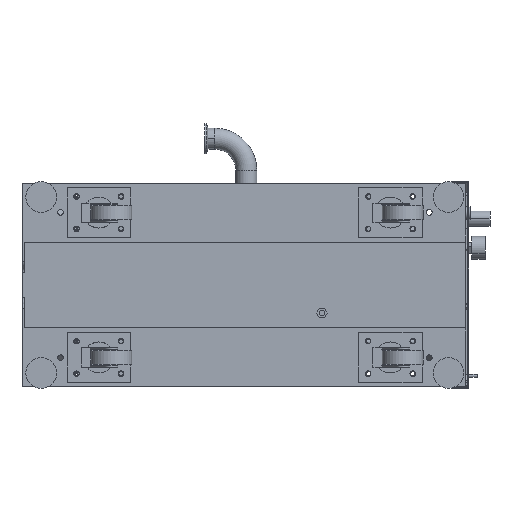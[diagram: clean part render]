
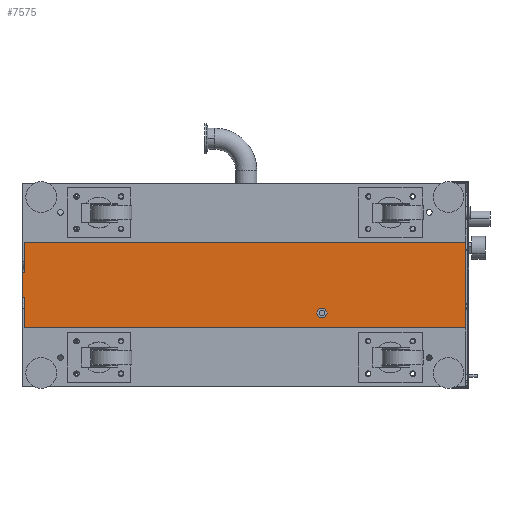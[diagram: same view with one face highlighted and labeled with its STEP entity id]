
A CAD part, front view. The second image highlights one B-rep face of the part: STEP entity #7575.
In plain terms, the highlighted planar face has unit normal (0, -1, 0).
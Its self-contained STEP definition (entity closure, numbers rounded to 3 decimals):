
#1477=DIRECTION('',(1.,0.,0.));
#1478=VECTOR('',#1477,802.);
#1479=CARTESIAN_POINT('',(-401.,59.,-107.));
#1480=LINE('',#1479,#1478);
#1499=DIRECTION('',(0.,0.,1.));
#1500=VECTOR('',#1499,55.);
#1501=CARTESIAN_POINT('',(-401.,59.,-263.));
#1502=LINE('',#1501,#1500);
#1503=DIRECTION('',(0.,0.,-1.));
#1504=VECTOR('',#1503,46.);
#1505=CARTESIAN_POINT('',(-405.,59.,-162.));
#1506=LINE('',#1505,#1504);
#1507=DIRECTION('',(0.,0.,1.));
#1508=VECTOR('',#1507,55.);
#1509=CARTESIAN_POINT('',(-401.,59.,-162.));
#1510=LINE('',#1509,#1508);
#1511=DIRECTION('',(0.,0.,1.));
#1512=VECTOR('',#1511,156.);
#1513=CARTESIAN_POINT('',(401.,59.,-263.));
#1514=LINE('',#1513,#1512);
#1515=DIRECTION('',(1.,0.,0.));
#1516=VECTOR('',#1515,802.);
#1517=CARTESIAN_POINT('',(-401.,59.,-263.));
#1518=LINE('',#1517,#1516);
#1519=DIRECTION('',(-0.5,0.,-0.866));
#1520=VECTOR('',#1519,9.815);
#1521=CARTESIAN_POINT('',(149.815,59.,-236.));
#1522=LINE('',#1521,#1520);
#1523=DIRECTION('',(0.5,0.,-0.866));
#1524=VECTOR('',#1523,9.815);
#1525=CARTESIAN_POINT('',(144.907,59.,-227.5));
#1526=LINE('',#1525,#1524);
#1527=DIRECTION('',(1.,0.,0.));
#1528=VECTOR('',#1527,9.815);
#1529=CARTESIAN_POINT('',(135.093,59.,-227.5));
#1530=LINE('',#1529,#1528);
#1531=DIRECTION('',(0.5,0.,0.866));
#1532=VECTOR('',#1531,9.815);
#1533=CARTESIAN_POINT('',(130.185,59.,-236.));
#1534=LINE('',#1533,#1532);
#1535=DIRECTION('',(-0.5,0.,0.866));
#1536=VECTOR('',#1535,9.815);
#1537=CARTESIAN_POINT('',(135.093,59.,-244.5));
#1538=LINE('',#1537,#1536);
#1539=DIRECTION('',(-1.,0.,0.));
#1540=VECTOR('',#1539,9.815);
#1541=CARTESIAN_POINT('',(144.907,59.,-244.5));
#1542=LINE('',#1541,#1540);
#1939=DIRECTION('',(1.,0.,0.));
#1940=VECTOR('',#1939,4.);
#1941=CARTESIAN_POINT('',(-405.,59.,-162.));
#1942=LINE('',#1941,#1940);
#1947=DIRECTION('',(-1.,0.,0.));
#1948=VECTOR('',#1947,4.);
#1949=CARTESIAN_POINT('',(-401.,59.,-208.));
#1950=LINE('',#1949,#1948);
#4747=CARTESIAN_POINT('',(135.093,59.,-244.5));
#4749=VERTEX_POINT('',#4747);
#4809=CARTESIAN_POINT('',(144.907,59.,-227.5));
#4811=VERTEX_POINT('',#4809);
#4823=CARTESIAN_POINT('',(130.185,59.,-236.));
#4824=VERTEX_POINT('',#4823);
#5235=CARTESIAN_POINT('',(149.815,59.,-236.));
#5236=CARTESIAN_POINT('',(144.907,59.,-244.5));
#5237=VERTEX_POINT('',#5235);
#5238=VERTEX_POINT('',#5236);
#5269=CARTESIAN_POINT('',(401.,59.,-263.));
#5270=CARTESIAN_POINT('',(401.,59.,-107.));
#5271=VERTEX_POINT('',#5269);
#5272=VERTEX_POINT('',#5270);
#5415=CARTESIAN_POINT('',(135.093,59.,-227.5));
#5416=VERTEX_POINT('',#5415);
#5803=CARTESIAN_POINT('',(-405.,59.,-162.));
#5804=CARTESIAN_POINT('',(-405.,59.,-208.));
#5805=VERTEX_POINT('',#5803);
#5806=VERTEX_POINT('',#5804);
#5970=CARTESIAN_POINT('',(-401.,59.,-107.));
#5972=VERTEX_POINT('',#5970);
#5993=CARTESIAN_POINT('',(-401.,59.,-263.));
#5994=CARTESIAN_POINT('',(-401.,59.,-208.));
#5995=VERTEX_POINT('',#5993);
#5996=VERTEX_POINT('',#5994);
#5997=CARTESIAN_POINT('',(-401.,59.,-162.));
#5998=VERTEX_POINT('',#5997);
#7541=CARTESIAN_POINT('',(401.,59.,-107.));
#7542=DIRECTION('',(0.,1.,0.));
#7543=DIRECTION('',(0.,0.,1.));
#7544=AXIS2_PLACEMENT_3D('',#7541,#7542,#7543);
#7545=PLANE('',#7544);
#7547=ORIENTED_EDGE('',*,*,#7546,.T.);
#7549=ORIENTED_EDGE('',*,*,#7548,.T.);
#7551=ORIENTED_EDGE('',*,*,#7550,.F.);
#7553=ORIENTED_EDGE('',*,*,#7552,.T.);
#7554=ORIENTED_EDGE('',*,*,#7522,.T.);
#7555=ORIENTED_EDGE('',*,*,#7504,.T.);
#7556=ORIENTED_EDGE('',*,*,#6967,.F.);
#7558=ORIENTED_EDGE('',*,*,#7557,.F.);
#7559=EDGE_LOOP('',(#7547,#7549,#7551,#7553,#7554,#7555,#7556,#7558));
#7560=FACE_OUTER_BOUND('',#7559,.F.);
#7562=ORIENTED_EDGE('',*,*,#7561,.F.);
#7564=ORIENTED_EDGE('',*,*,#7563,.F.);
#7566=ORIENTED_EDGE('',*,*,#7565,.F.);
#7568=ORIENTED_EDGE('',*,*,#7567,.F.);
#7570=ORIENTED_EDGE('',*,*,#7569,.F.);
#7572=ORIENTED_EDGE('',*,*,#7571,.F.);
#7573=EDGE_LOOP('',(#7562,#7564,#7566,#7568,#7570,#7572));
#7574=FACE_BOUND('',#7573,.F.);
#6967=EDGE_CURVE('',#5271,#5272,#1514,.T.);
#7504=EDGE_CURVE('',#5972,#5272,#1480,.T.);
#7522=EDGE_CURVE('',#5998,#5972,#1510,.T.);
#7546=EDGE_CURVE('',#5995,#5996,#1502,.T.);
#7548=EDGE_CURVE('',#5996,#5806,#1950,.T.);
#7550=EDGE_CURVE('',#5805,#5806,#1506,.T.);
#7552=EDGE_CURVE('',#5805,#5998,#1942,.T.);
#7557=EDGE_CURVE('',#5995,#5271,#1518,.T.);
#7561=EDGE_CURVE('',#5237,#5238,#1522,.T.);
#7563=EDGE_CURVE('',#4811,#5237,#1526,.T.);
#7565=EDGE_CURVE('',#5416,#4811,#1530,.T.);
#7567=EDGE_CURVE('',#4824,#5416,#1534,.T.);
#7569=EDGE_CURVE('',#4749,#4824,#1538,.T.);
#7571=EDGE_CURVE('',#5238,#4749,#1542,.T.);
#7575=ADVANCED_FACE('',(#7560,#7574),#7545,.F.);
